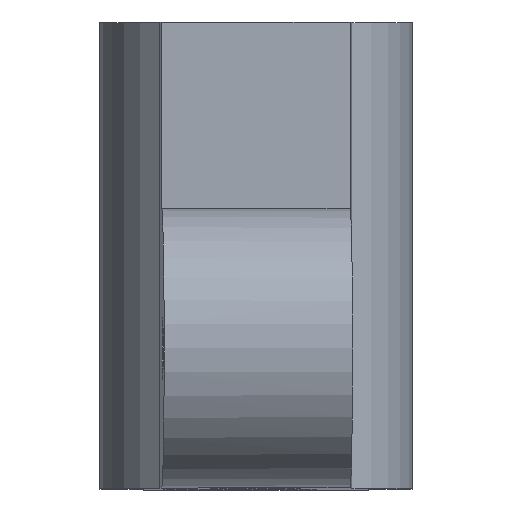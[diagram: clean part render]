
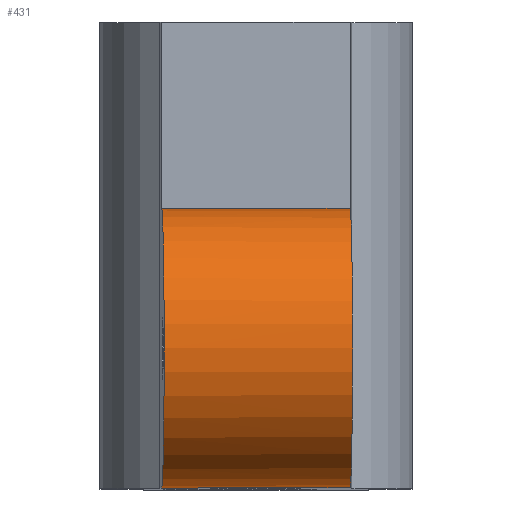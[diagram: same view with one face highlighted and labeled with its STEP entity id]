
A CAD part, top view. The second image highlights one B-rep face of the part: STEP entity #431.
In plain terms, the highlighted cylindrical face has radius 9 mm (diameter 18 mm), a partial arc.
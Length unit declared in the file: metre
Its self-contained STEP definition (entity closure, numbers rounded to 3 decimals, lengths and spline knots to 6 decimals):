
#22=ELLIPSE('',#468,0.491523,0.009);
#29=CYLINDRICAL_SURFACE('',#483,0.009);
#60=LINE('',#710,#89);
#89=VECTOR('',#580,1.);
#189=ORIENTED_EDGE('',*,*,#209,.T.);
#190=ORIENTED_EDGE('',*,*,#251,.T.);
#191=ORIENTED_EDGE('',*,*,#261,.F.);
#192=ORIENTED_EDGE('',*,*,#242,.T.);
#209=EDGE_CURVE('',#268,#267,#306,.T.);
#242=EDGE_CURVE('',#290,#268,#22,.F.);
#251=EDGE_CURVE('',#267,#288,#60,.T.);
#261=EDGE_CURVE('',#290,#288,#321,.T.);
#267=VERTEX_POINT('',#616);
#268=VERTEX_POINT('',#618);
#288=VERTEX_POINT('',#674);
#290=VERTEX_POINT('',#680);
#306=CIRCLE('',#452,0.009);
#321=CIRCLE('',#484,0.009);
#353=EDGE_LOOP('',(#189,#190,#191,#192));
#391=FACE_BOUND('',#353,.T.);
#431=ADVANCED_FACE('',(#391),#29,.T.);
#452=AXIS2_PLACEMENT_3D('',#617,#500,#501);
#468=AXIS2_PLACEMENT_3D('',#682,#558,#559);
#483=AXIS2_PLACEMENT_3D('',#1649,#590,#591);
#484=AXIS2_PLACEMENT_3D('',#1650,#592,#593);
#500=DIRECTION('',(1.,0.,-0.018));
#501=DIRECTION('',(0.018,0.,1.));
#558=DIRECTION('',(0.,0.,-1.));
#559=DIRECTION('',(-1.,0.,0.));
#580=DIRECTION('',(1.,0.,0.));
#590=DIRECTION('',(-1.,0.,0.018));
#591=DIRECTION('',(0.018,0.,1.));
#592=DIRECTION('',(1.,0.,-0.018));
#593=DIRECTION('',(0.018,0.,1.));
#616=CARTESIAN_POINT('',(-0.013296,-0.0569,0.043241));
#617=CARTESIAN_POINT('',(-0.013296,-0.0479,0.043241));
#618=CARTESIAN_POINT('',(-0.013296,-0.0389,0.043241));
#674=CARTESIAN_POINT('',(-0.001164,-0.056897,0.043241));
#680=CARTESIAN_POINT('',(-0.001164,-0.038903,0.043241));
#682=CARTESIAN_POINT('',(-0.013296,-0.0479,0.043241));
#710=CARTESIAN_POINT('',(-0.010261,-0.0569,0.043241));
#1649=CARTESIAN_POINT('',(-0.001168,-0.0479,0.043019));
#1650=CARTESIAN_POINT('',(-0.001168,-0.0479,0.043019));
